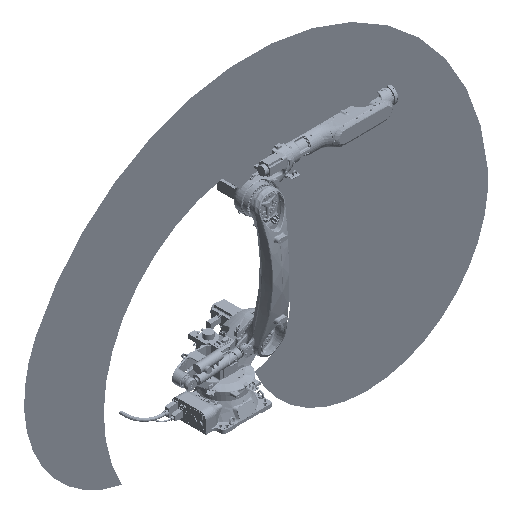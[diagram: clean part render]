
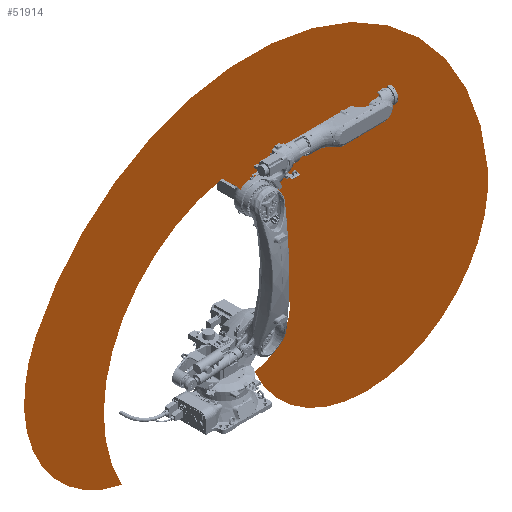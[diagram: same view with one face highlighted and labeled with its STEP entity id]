
A CAD part, isometric view. The second image highlights one B-rep face of the part: STEP entity #51914.
In plain terms, the highlighted planar face has unit normal (0, 1, 0).
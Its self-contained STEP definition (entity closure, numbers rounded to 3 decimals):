
#37206=FACE_OUTER_BOUND('',#74094,.T.);
#42751=PLANE('',#189227);
#51914=ADVANCED_FACE('',(#37206),#42751,.T.);
#74094=EDGE_LOOP('',(#113075,#113076,#113077,#113078,#113079,#113080));
#113075=ORIENTED_EDGE('',*,*,#160410,.T.);
#113076=ORIENTED_EDGE('',*,*,#160411,.T.);
#113077=ORIENTED_EDGE('',*,*,#160412,.T.);
#113078=ORIENTED_EDGE('',*,*,#160413,.T.);
#113079=ORIENTED_EDGE('',*,*,#160414,.T.);
#113080=ORIENTED_EDGE('',*,*,#160415,.T.);
#138308=VERTEX_POINT('',#386378);
#138309=VERTEX_POINT('',#386379);
#138310=VERTEX_POINT('',#386381);
#138311=VERTEX_POINT('',#386383);
#138312=VERTEX_POINT('',#386385);
#138313=VERTEX_POINT('',#386387);
#160410=EDGE_CURVE('',#138308,#138309,#173431,.T.);
#160411=EDGE_CURVE('',#138309,#138310,#173432,.T.);
#160412=EDGE_CURVE('',#138310,#138311,#173433,.T.);
#160413=EDGE_CURVE('',#138311,#138312,#173434,.T.);
#160414=EDGE_CURVE('',#138312,#138313,#173435,.T.);
#160415=EDGE_CURVE('',#138313,#138308,#173436,.T.);
#173431=CIRCLE('',#189221,2876.482);
#173432=CIRCLE('',#189222,1476.482);
#173433=CIRCLE('',#189223,470.184);
#173434=CIRCLE('',#189224,1476.482);
#173435=CIRCLE('',#189225,1780.464);
#173436=CIRCLE('',#189226,1476.482);
#189221=AXIS2_PLACEMENT_3D('',#386377,#227590,#227591);
#189222=AXIS2_PLACEMENT_3D('',#386380,#227592,#227593);
#189223=AXIS2_PLACEMENT_3D('',#386382,#227594,#227595);
#189224=AXIS2_PLACEMENT_3D('',#386384,#227596,#227597);
#189225=AXIS2_PLACEMENT_3D('',#386386,#227598,#227599);
#189226=AXIS2_PLACEMENT_3D('',#386388,#227600,#227601);
#189227=AXIS2_PLACEMENT_3D('',#386389,#227602,#227603);
#227590=DIRECTION('',(0.,1.,0.));
#227591=DIRECTION('',(1.,0.,0.));
#227592=DIRECTION('',(0.,1.,0.));
#227593=DIRECTION('',(1.,0.,0.));
#227594=DIRECTION('',(0.,-1.,0.));
#227595=DIRECTION('',(1.,0.,0.));
#227596=DIRECTION('',(0.,-1.,0.));
#227597=DIRECTION('',(1.,0.,0.));
#227598=DIRECTION('',(0.,-1.,0.));
#227599=DIRECTION('',(1.,0.,0.));
#227600=DIRECTION('',(0.,1.,0.));
#227601=DIRECTION('',(1.,0.,0.));
#227602=DIRECTION('',(0.,1.,0.));
#227603=DIRECTION('',(-1.,0.,0.));
#386377=CARTESIAN_POINT('',(0.,0.,0.));
#386378=CARTESIAN_POINT('',(-2606.979,0.,1215.654));
#386379=CARTESIAN_POINT('',(2865.537,0.,250.702));
#386380=CARTESIAN_POINT('',(1394.673,0.,122.018));
#386381=CARTESIAN_POINT('',(41.361,0.,-468.361));
#386382=CARTESIAN_POINT('',(0.,0.,0.));
#386383=CARTESIAN_POINT('',(198.361,0.,426.293));
#386384=CARTESIAN_POINT('',(-1268.831,0.,591.666));
#386385=CARTESIAN_POINT('',(-348.305,0.,1746.063));
#386386=CARTESIAN_POINT('',(0.,0.,0.));
#386387=CARTESIAN_POINT('',(-1561.448,0.,-855.53));
#386388=CARTESIAN_POINT('',(-1268.831,0.,591.666));
#386389=CARTESIAN_POINT('',(697.336,0.,61.009));
